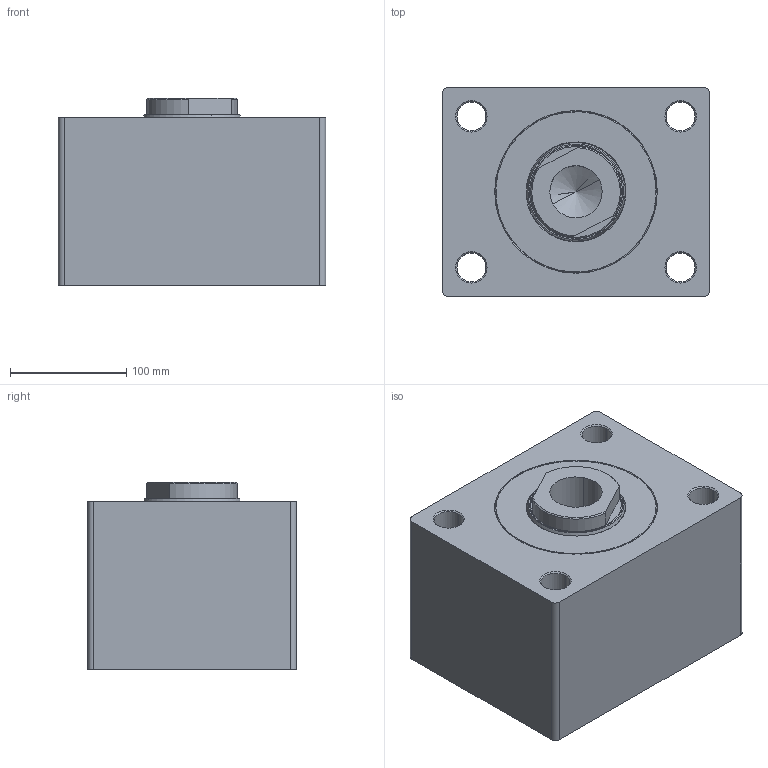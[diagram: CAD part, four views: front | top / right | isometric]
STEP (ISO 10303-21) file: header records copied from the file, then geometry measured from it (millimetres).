
FILE_DESCRIPTION (( 'STEP AP214' ), '1' );
FILE_NAME ('KBZ_02_125_80_35.STEP', '2023-05-19T20:47:12', ( '' ), ( '' ), 'SwSTEP 2.0', 'SolidWorks 2021', '' );
FILE_SCHEMA (( 'AUTOMOTIVE_DESIGN' ));
Length unit declared in the file: millimetre
Products named in the file (9): K06-80X92_2X7_2X12(K06_080); KBZ_02_125_80_ON_KAPAK; KBZ_02_125_GOVDE_WEB; K22-80X90X12(K22_080); KBZ_80_K_MIL_WEB; KBZ_02_125_80_35; K68-80X85X9_7(K68_080_3); K84-128
Assembly tree (8 placements, depth 3):
  KBZ_02_125_80_35
    KBZ_02_125_GOVDE_WEB
    KBZ_80_K_MIL_WEB
    KBZ_02_125_80_ON_KAPAK
      KBZ_02_125_80_ON_KAPAK
      K06-80X92_2X7_2X12(K06_080)
      K22-80X90X12(K22_080)
      K68-80X85X9_7(K68_080_3)
      K84-128
Bounding box: 230 x 180 x 161 mm (x, y, z)
Volume: 5557273.4 mm3; surface area: 428438.9 mm2
Topology: 7 solids, 7 shells, 578 faces, 1406 edges, 895 vertices
Faces by surface type: bspline 260, plane 180, cylinder 71, cone 65, torus 2
Entity records: 28022 total; most frequent: CARTESIAN_POINT 15800, ORIENTED_EDGE 2808, DIRECTION 1727, EDGE_CURVE 1404, VERTEX_POINT 895, LINE 661, VECTOR 661, EDGE_LOOP 651
